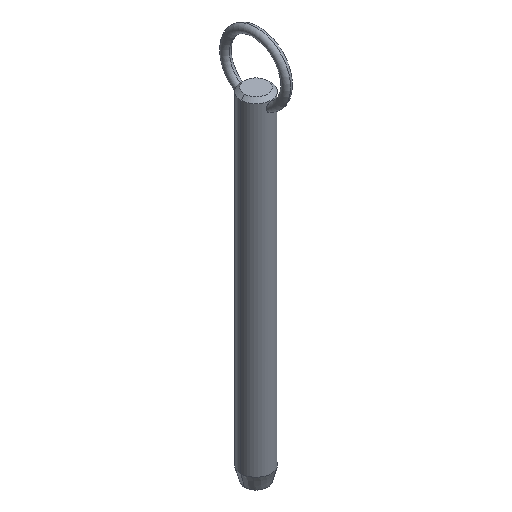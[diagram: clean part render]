
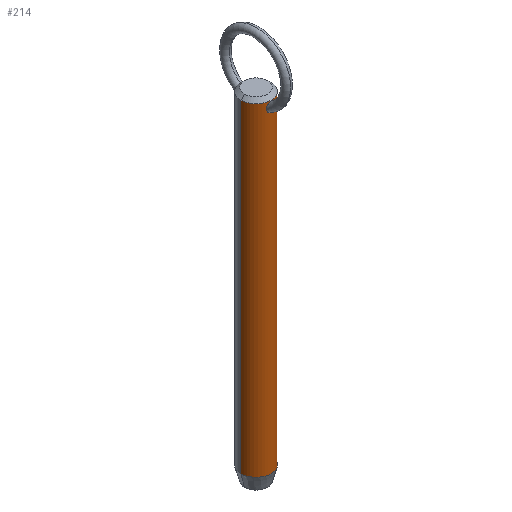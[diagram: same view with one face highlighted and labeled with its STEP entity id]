
A CAD part, isometric view. The second image highlights one B-rep face of the part: STEP entity #214.
In plain terms, the highlighted cylindrical face has radius 5.55 mm (diameter 11.1 mm), a partial arc.
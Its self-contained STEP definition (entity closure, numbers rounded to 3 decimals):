
#6 = VERTEX_POINT ( 'NONE', #405 ) ;
#14 = LINE ( 'NONE', #245, #233 ) ;
#15 = VERTEX_POINT ( 'NONE', #401 ) ;
#24 = VERTEX_POINT ( 'NONE', #123 ) ;
#26 = CARTESIAN_POINT ( 'NONE',  ( 0.786, -5.497, 108.557 ) ) ;
#35 = CARTESIAN_POINT ( 'NONE',  ( 0.107, -5.55, 105.377 ) ) ;
#36 = CARTESIAN_POINT ( 'NONE',  ( -1.44, -5.36, 107.487 ) ) ;
#38 = CARTESIAN_POINT ( 'NONE',  ( 0., 0., 104.1 ) ) ;
#42 = CARTESIAN_POINT ( 'NONE',  ( -0.211, -5.547, 108.829 ) ) ;
#44 = CARTESIAN_POINT ( 'NONE',  ( -0.107, -5.55, 105.377 ) ) ;
#65 = CARTESIAN_POINT ( 'NONE',  ( -1.362, -5.381, 106.232 ) ) ;
#70 = EDGE_LOOP ( 'NONE', ( #400, #398 ) ) ;
#75 = CYLINDRICAL_SURFACE ( 'NONE', #499, 5.55 ) ;
#78 = CARTESIAN_POINT ( 'NONE',  ( -1.5, -5.343, 106.853 ) ) ;
#83 = CARTESIAN_POINT ( 'NONE',  ( -0.785, -5.497, 108.558 ) ) ;
#86 = EDGE_CURVE ( 'NONE', #24, #266, #478, .T. ) ;
#105 = CARTESIAN_POINT ( 'NONE',  ( -0.976, -5.464, 105.731 ) ) ;
#108 = FACE_OUTER_BOUND ( 'NONE', #290, .T. ) ;
#110 = CARTESIAN_POINT ( 'NONE',  ( 1.455, -5.356, 106.538 ) ) ;
#116 = CARTESIAN_POINT ( 'NONE',  ( 0., -5.55, 108.845 ) ) ;
#118 = CARTESIAN_POINT ( 'NONE',  ( 1.055, -5.449, 105.805 ) ) ;
#123 = CARTESIAN_POINT ( 'NONE',  ( 5.55, 0., 109.15 ) ) ;
#124 = CARTESIAN_POINT ( 'NONE',  ( 0.716, -5.504, 105.552 ) ) ;
#126 = CARTESIAN_POINT ( 'NONE',  ( -1.477, -5.35, 106.642 ) ) ;
#135 = CARTESIAN_POINT ( 'NONE',  ( 0., -5.55, 108.845 ) ) ;
#149 = CARTESIAN_POINT ( 'NONE',  ( 0.941, -5.471, 108.407 ) ) ;
#175 = CARTESIAN_POINT ( 'NONE',  ( 0., -5.55, 105.377 ) ) ;
#177 = CARTESIAN_POINT ( 'NONE',  ( 0., 0., -9.2 ) ) ;
#185 = ORIENTED_EDGE ( 'NONE', *, *, #306, .T. ) ;
#187 = CARTESIAN_POINT ( 'NONE',  ( 1.503, -5.343, 106.959 ) ) ;
#189 = LINE ( 'NONE', #218, #254 ) ;
#191 = DIRECTION ( 'NONE',  ( 0., 0., -1. ) ) ;
#192 = CARTESIAN_POINT ( 'NONE',  ( 1.477, -5.35, 106.644 ) ) ;
#195 = ORIENTED_EDGE ( 'NONE', *, *, #376, .F. ) ;
#211 = CARTESIAN_POINT ( 'NONE',  ( -0.939, -5.472, 108.41 ) ) ;
#214 = ADVANCED_FACE ( 'NONE', ( #108, #215 ), #75, .T. ) ;
#215 = FACE_BOUND ( 'NONE', #70, .T. ) ;
#218 = CARTESIAN_POINT ( 'NONE',  ( -5.55, 0., 104.1 ) ) ;
#222 = CARTESIAN_POINT ( 'NONE',  ( -5.55, 0., 109.15 ) ) ;
#229 = VERTEX_POINT ( 'NONE', #135 ) ;
#231 = CARTESIAN_POINT ( 'NONE',  ( -1.054, -5.449, 105.804 ) ) ;
#233 = VECTOR ( 'NONE', #391, 1000. ) ;
#234 = CARTESIAN_POINT ( 'NONE',  ( 0.106, -5.55, 108.845 ) ) ;
#236 = CARTESIAN_POINT ( 'NONE',  ( 0.417, -5.535, 108.767 ) ) ;
#238 = B_SPLINE_CURVE_WITH_KNOTS ( 'NONE', 3,
 ( #175, #44, #242, #509, #318, #389, #510, #105, #231, #505, #65, #427, #126, #78, #406, #252, #36, #329, #524, #211, #83, #397, #447, #42, #363, #116 ),
 .UNSPECIFIED., .F., .F.,
 ( 4, 2, 2, 2, 2, 2, 2, 2, 2, 2, 2, 2, 4 ),
 ( 0.01, 0.01, 0.01, 0.011, 0.011, 0.012, 0.012, 0.012, 0.013, 0.013, 0.014, 0.014, 0.015 ),
 .UNSPECIFIED. ) ;
#242 = CARTESIAN_POINT ( 'NONE',  ( -0.212, -5.547, 105.388 ) ) ;
#245 = CARTESIAN_POINT ( 'NONE',  ( 5.55, 0., 104.1 ) ) ;
#249 = CARTESIAN_POINT ( 'NONE',  ( 0.807, -5.492, 105.606 ) ) ;
#252 = CARTESIAN_POINT ( 'NONE',  ( -1.485, -5.348, 107.279 ) ) ;
#254 = VECTOR ( 'NONE', #377, 1000. ) ;
#262 = DIRECTION ( 'NONE',  ( 0., 0., 1. ) ) ;
#266 = VERTEX_POINT ( 'NONE', #222 ) ;
#276 = CARTESIAN_POINT ( 'NONE',  ( 0.515, -5.527, 108.722 ) ) ;
#290 = EDGE_LOOP ( 'NONE', ( #195, #291, #324, #185 ) ) ;
#291 = ORIENTED_EDGE ( 'NONE', *, *, #86, .T. ) ;
#300 = DIRECTION ( 'NONE',  ( -1., 0., 0. ) ) ;
#306 = EDGE_CURVE ( 'NONE', #322, #6, #418, .T. ) ;
#309 = B_SPLINE_CURVE_WITH_KNOTS ( 'NONE', 3,
 ( #431, #234, #358, #236, #276, #26, #149, #356, #320, #390, #388, #187, #469, #192, #110, #370, #522, #118, #407, #249, #124, #474, #517, #321, #35, #470 ),
 .UNSPECIFIED., .F., .F.,
 ( 4, 2, 2, 2, 2, 2, 2, 2, 2, 2, 2, 2, 4 ),
 ( 0.005, 0.005, 0.005, 0.006, 0.006, 0.007, 0.007, 0.008, 0.008, 0.009, 0.009, 0.009, 0.01 ),
 .UNSPECIFIED. ) ;
#318 = CARTESIAN_POINT ( 'NONE',  ( -0.523, -5.526, 105.466 ) ) ;
#319 = DIRECTION ( 'NONE',  ( 1., 0., 0. ) ) ;
#320 = CARTESIAN_POINT ( 'NONE',  ( 1.295, -5.397, 107.882 ) ) ;
#321 = CARTESIAN_POINT ( 'NONE',  ( 0.213, -5.547, 105.388 ) ) ;
#322 = VERTEX_POINT ( 'NONE', #460 ) ;
#324 = ORIENTED_EDGE ( 'NONE', *, *, #473, .T. ) ;
#329 = CARTESIAN_POINT ( 'NONE',  ( -1.294, -5.398, 107.886 ) ) ;
#351 = EDGE_CURVE ( 'NONE', #229, #15, #309, .T. ) ;
#356 = CARTESIAN_POINT ( 'NONE',  ( 1.194, -5.422, 108.071 ) ) ;
#358 = CARTESIAN_POINT ( 'NONE',  ( 0.214, -5.547, 108.828 ) ) ;
#363 = CARTESIAN_POINT ( 'NONE',  ( -0.106, -5.55, 108.845 ) ) ;
#370 = CARTESIAN_POINT ( 'NONE',  ( 1.363, -5.38, 106.234 ) ) ;
#373 = AXIS2_PLACEMENT_3D ( 'NONE', #468, #191, #319 ) ;
#376 = EDGE_CURVE ( 'NONE', #24, #6, #14, .T. ) ;
#377 = DIRECTION ( 'NONE',  ( 0., 0., -1. ) ) ;
#388 = CARTESIAN_POINT ( 'NONE',  ( 1.486, -5.347, 107.274 ) ) ;
#389 = CARTESIAN_POINT ( 'NONE',  ( -0.716, -5.504, 105.552 ) ) ;
#390 = CARTESIAN_POINT ( 'NONE',  ( 1.44, -5.36, 107.486 ) ) ;
#391 = DIRECTION ( 'NONE',  ( 0., 0., -1. ) ) ;
#394 = DIRECTION ( 'NONE',  ( 0., 0., -1. ) ) ;
#397 = CARTESIAN_POINT ( 'NONE',  ( -0.513, -5.527, 108.723 ) ) ;
#398 = ORIENTED_EDGE ( 'NONE', *, *, #504, .T. ) ;
#400 = ORIENTED_EDGE ( 'NONE', *, *, #351, .T. ) ;
#401 = CARTESIAN_POINT ( 'NONE',  ( 0., -5.55, 105.377 ) ) ;
#405 = CARTESIAN_POINT ( 'NONE',  ( 5.55, 0., -9.2 ) ) ;
#406 = CARTESIAN_POINT ( 'NONE',  ( -1.503, -5.343, 106.959 ) ) ;
#407 = CARTESIAN_POINT ( 'NONE',  ( 0.977, -5.464, 105.732 ) ) ;
#418 = CIRCLE ( 'NONE', #440, 5.55 ) ;
#427 = CARTESIAN_POINT ( 'NONE',  ( -1.455, -5.356, 106.536 ) ) ;
#431 = CARTESIAN_POINT ( 'NONE',  ( 0., -5.55, 108.845 ) ) ;
#440 = AXIS2_PLACEMENT_3D ( 'NONE', #177, #262, #300 ) ;
#447 = CARTESIAN_POINT ( 'NONE',  ( -0.416, -5.535, 108.767 ) ) ;
#452 = DIRECTION ( 'NONE',  ( -1., 0., 0. ) ) ;
#460 = CARTESIAN_POINT ( 'NONE',  ( -5.55, 0., -9.2 ) ) ;
#468 = CARTESIAN_POINT ( 'NONE',  ( 0., 0., 109.15 ) ) ;
#469 = CARTESIAN_POINT ( 'NONE',  ( 1.5, -5.343, 106.854 ) ) ;
#470 = CARTESIAN_POINT ( 'NONE',  ( 0., -5.55, 105.377 ) ) ;
#473 = EDGE_CURVE ( 'NONE', #266, #322, #189, .T. ) ;
#474 = CARTESIAN_POINT ( 'NONE',  ( 0.523, -5.526, 105.466 ) ) ;
#478 = CIRCLE ( 'NONE', #373, 5.55 ) ;
#499 = AXIS2_PLACEMENT_3D ( 'NONE', #38, #394, #452 ) ;
#504 = EDGE_CURVE ( 'NONE', #15, #229, #238, .T. ) ;
#505 = CARTESIAN_POINT ( 'NONE',  ( -1.26, -5.407, 106.042 ) ) ;
#509 = CARTESIAN_POINT ( 'NONE',  ( -0.42, -5.535, 105.432 ) ) ;
#510 = CARTESIAN_POINT ( 'NONE',  ( -0.807, -5.492, 105.605 ) ) ;
#517 = CARTESIAN_POINT ( 'NONE',  ( 0.421, -5.535, 105.432 ) ) ;
#522 = CARTESIAN_POINT ( 'NONE',  ( 1.26, -5.407, 106.043 ) ) ;
#524 = CARTESIAN_POINT ( 'NONE',  ( -1.195, -5.421, 108.071 ) ) ;
